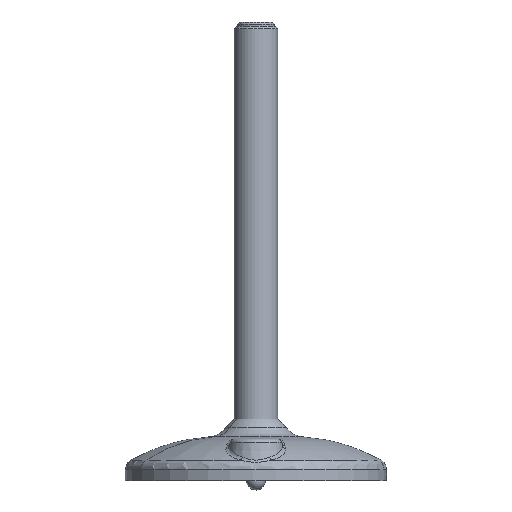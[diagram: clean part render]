
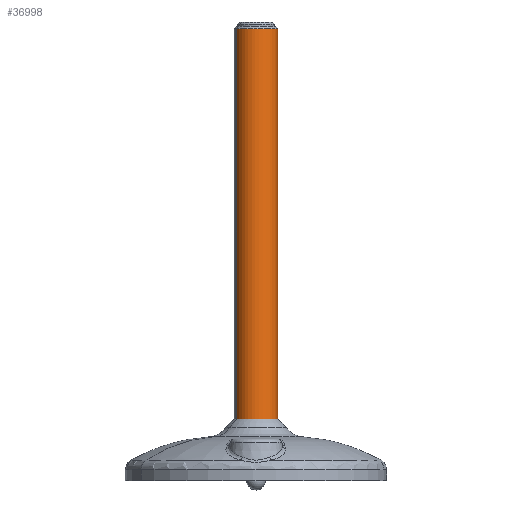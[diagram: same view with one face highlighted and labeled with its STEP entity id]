
A CAD part, left-side view. The second image highlights one B-rep face of the part: STEP entity #36998.
In plain terms, the highlighted cylindrical face has radius 10 mm (diameter 20 mm), a partial arc.
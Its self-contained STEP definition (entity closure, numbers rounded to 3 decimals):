
#36721=CARTESIAN_POINT('Vertex',(4.794,-8.776,207.6)) ;
#36728=CARTESIAN_POINT('Vertex',(-4.794,8.776,207.6)) ;
#36748=CARTESIAN_POINT('Axis2P3D Location',(0.,0.,207.6)) ;
#36956=CARTESIAN_POINT('Axis2P3D Location',(0.,0.,103.125)) ;
#36961=CARTESIAN_POINT('Line Origine',(-4.794,8.776,117.1)) ;
#36965=CARTESIAN_POINT('Vertex',(-4.794,8.776,27.6)) ;
#36968=CARTESIAN_POINT('Line Origine',(4.794,-8.776,117.1)) ;
#36972=CARTESIAN_POINT('Vertex',(4.794,-8.776,27.6)) ;
#36987=CARTESIAN_POINT('Axis2P3D Location',(0.,0.,27.6)) ;
#36749=DIRECTION('Axis2P3D Direction',(0.,0.,-1.)) ;
#36957=DIRECTION('Axis2P3D Direction',(0.,0.,1.)) ;
#36958=DIRECTION('Axis2P3D XDirection',(0.479,-0.878,0.)) ;
#36962=DIRECTION('Vector Direction',(0.,0.,1.)) ;
#36969=DIRECTION('Vector Direction',(0.,0.,1.)) ;
#36988=DIRECTION('Axis2P3D Direction',(0.,0.,1.)) ;
#36750=AXIS2_PLACEMENT_3D('Circle Axis2P3D',#36748,#36749,$) ;
#36959=AXIS2_PLACEMENT_3D('Cylinder Axis2P3D',#36956,#36957,#36958) ;
#36989=AXIS2_PLACEMENT_3D('Circle Axis2P3D',#36987,#36988,$) ;
#36993=ORIENTED_EDGE('',*,*,#36974,.F.) ;
#36994=ORIENTED_EDGE('',*,*,#36752,.F.) ;
#36995=ORIENTED_EDGE('',*,*,#36967,.T.) ;
#36996=ORIENTED_EDGE('',*,*,#36991,.T.) ;
#36963=VECTOR('Line Direction',#36962,1.) ;
#36970=VECTOR('Line Direction',#36969,1.) ;
#36998=ADVANCED_FACE('PartBody',(#36997),#36960,.T.) ;
#36751=CIRCLE('generated circle',#36750,10.) ;
#36990=CIRCLE('generated circle',#36989,10.) ;
#36960=CYLINDRICAL_SURFACE('generated cylinder',#36959,10.) ;
#36752=EDGE_CURVE('',#36729,#36722,#36751,.F.) ;
#36967=EDGE_CURVE('',#36729,#36966,#36964,.F.) ;
#36974=EDGE_CURVE('',#36722,#36973,#36971,.F.) ;
#36991=EDGE_CURVE('',#36966,#36973,#36990,.T.) ;
#36992=EDGE_LOOP('',(#36993,#36994,#36995,#36996)) ;
#36997=FACE_OUTER_BOUND('',#36992,.T.) ;
#36964=LINE('Line',#36961,#36963) ;
#36971=LINE('Line',#36968,#36970) ;
#36722=VERTEX_POINT('',#36721) ;
#36729=VERTEX_POINT('',#36728) ;
#36966=VERTEX_POINT('',#36965) ;
#36973=VERTEX_POINT('',#36972) ;
